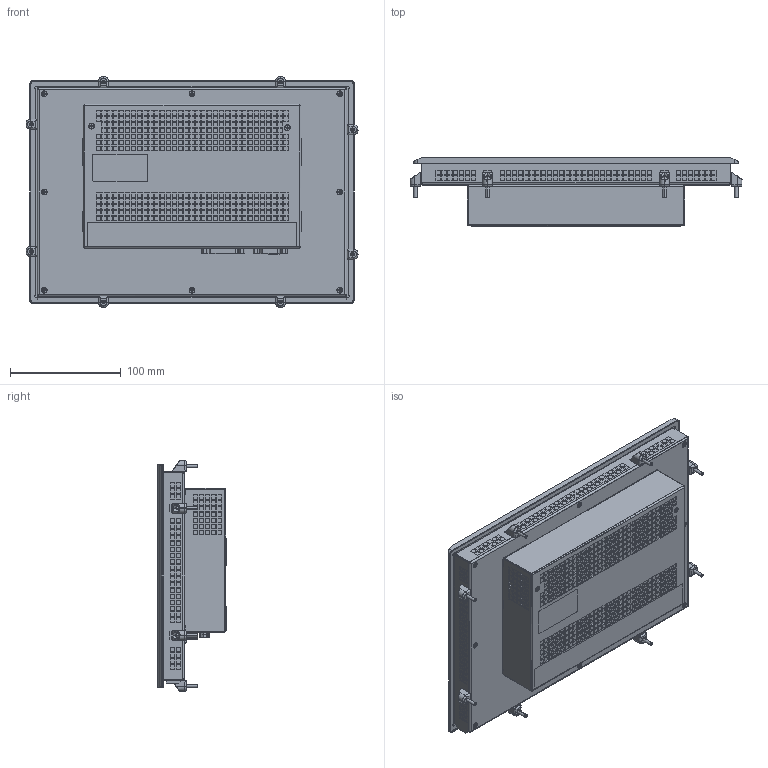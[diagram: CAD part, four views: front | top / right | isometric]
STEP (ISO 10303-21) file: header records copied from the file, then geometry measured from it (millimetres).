
FILE_DESCRIPTION (( 'STEP AP214' ), '1' );
FILE_NAME ('C6S14_101W_RES_DB15.STEP', '2019-07-29T12:30:26', ( '' ), ( '' ), 'SwSTEP 2.0', 'SolidWorks 2018', '' );
FILE_SCHEMA (( 'AUTOMOTIVE_DESIGN' ));
Length unit declared in the file: millimetre
Products named in the file (5): C6S14_101W_RES_UPS_1; DB15_Male_pin; C6S14_101W_RES_DB15; C6S14_101W_RES_ASM; C6S14_101W_RES
Assembly tree (4 placements, depth 3):
  C6S14_101W_RES_DB15
    C6S14_101W_RES_ASM
    C6S14_101W_RES
      C6S14_101W_RES_UPS_1
      DB15_Male_pin
Bounding box: 300 x 61.49 x 208.5 mm (x, y, z)
Surface area: 381597.1 mm2
Topology: 1 solids, 5133 shells, 5408 faces, 29427 edges, 29139 vertices
Faces by surface type: plane 4218, cylinder 742, cone 229, bspline 157, torus 42, sphere 20
Entity records: 336597 total; most frequent: CARTESIAN_POINT 123939, DIRECTION 35406, ORIENTED_EDGE 29988, EDGE_CURVE 29373, VERTEX_POINT 29122, VECTOR 21196, LINE 21196, AXIS2_PLACEMENT_3D 7105
